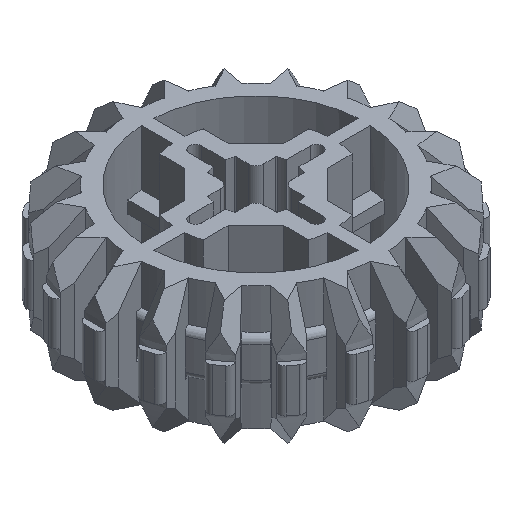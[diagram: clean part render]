
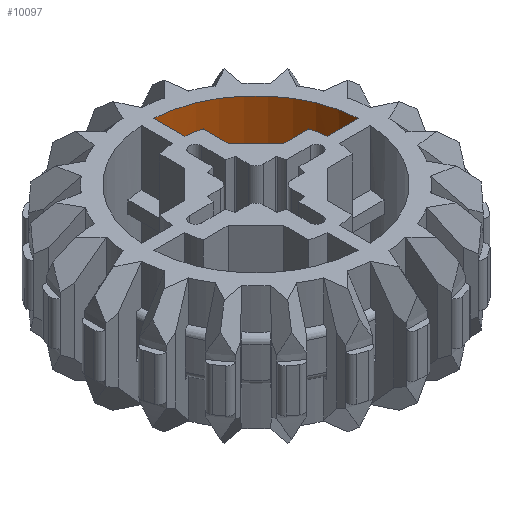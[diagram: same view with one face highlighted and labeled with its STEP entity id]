
A CAD part, isometric view. The second image highlights one B-rep face of the part: STEP entity #10097.
In plain terms, the highlighted cylindrical face has radius 7 mm (diameter 14 mm), a partial arc.
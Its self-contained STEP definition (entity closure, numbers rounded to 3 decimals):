
#575=CIRCLE('',#10607,7.);
#577=CIRCLE('',#10610,7.);
#783=CIRCLE('',#11012,7.);
#784=CIRCLE('',#11013,7.);
#785=CIRCLE('',#11014,7.);
#786=CIRCLE('',#11015,7.);
#2924=ORIENTED_EDGE('',*,*,#5269,.F.);
#2925=ORIENTED_EDGE('',*,*,#4802,.T.);
#2926=ORIENTED_EDGE('',*,*,#5278,.F.);
#2927=ORIENTED_EDGE('',*,*,#5279,.T.);
#2928=ORIENTED_EDGE('',*,*,#5255,.T.);
#2929=ORIENTED_EDGE('',*,*,#4798,.T.);
#2930=ORIENTED_EDGE('',*,*,#5264,.F.);
#2931=ORIENTED_EDGE('',*,*,#5280,.F.);
#2932=ORIENTED_EDGE('',*,*,#5281,.F.);
#2933=ORIENTED_EDGE('',*,*,#5282,.F.);
#2934=ORIENTED_EDGE('',*,*,#5283,.T.);
#2935=ORIENTED_EDGE('',*,*,#5284,.F.);
#4798=EDGE_CURVE('',#6190,#6191,#575,.T.);
#4802=EDGE_CURVE('',#6194,#6195,#577,.T.);
#5255=EDGE_CURVE('',#6394,#6190,#7342,.T.);
#5264=EDGE_CURVE('',#6401,#6191,#7350,.T.);
#5269=EDGE_CURVE('',#6194,#6404,#7355,.F.);
#5278=EDGE_CURVE('',#6409,#6195,#7363,.T.);
#5279=EDGE_CURVE('',#6409,#6394,#783,.T.);
#5280=EDGE_CURVE('',#6410,#6401,#784,.T.);
#5281=EDGE_CURVE('',#6411,#6410,#7364,.T.);
#5282=EDGE_CURVE('',#6412,#6411,#785,.T.);
#5283=EDGE_CURVE('',#6412,#6413,#7365,.T.);
#5284=EDGE_CURVE('',#6404,#6413,#786,.T.);
#6190=VERTEX_POINT('',#16102);
#6191=VERTEX_POINT('',#16103);
#6194=VERTEX_POINT('',#16111);
#6195=VERTEX_POINT('',#16112);
#6394=VERTEX_POINT('',#17021);
#6401=VERTEX_POINT('',#17038);
#6404=VERTEX_POINT('',#17049);
#6409=VERTEX_POINT('',#17064);
#6410=VERTEX_POINT('',#17069);
#6411=VERTEX_POINT('',#17071);
#6412=VERTEX_POINT('',#17073);
#6413=VERTEX_POINT('',#17075);
#7342=LINE('',#17020,#8302);
#7350=LINE('',#17039,#8310);
#7355=LINE('',#17048,#8315);
#7363=LINE('',#17065,#8323);
#7364=LINE('',#17070,#8324);
#7365=LINE('',#17074,#8325);
#8302=VECTOR('',#13677,1000.);
#8310=VECTOR('',#13691,1000.);
#8315=VECTOR('',#13700,1000.);
#8323=VECTOR('',#13714,1000.);
#8324=VECTOR('',#13721,1000.);
#8325=VECTOR('',#13724,1000.);
#8767=EDGE_LOOP('',(#2924,#2925,#2926,#2927,#2928,#2929,#2930,#2931,#2932,
#2933,#2934,#2935));
#9321=FACE_BOUND('',#8767,.T.);
#9653=CYLINDRICAL_SURFACE('',#11011,7.);
#10097=ADVANCED_FACE('',(#9321),#9653,.F.);
#10607=AXIS2_PLACEMENT_3D('',#16101,#12658,#12659);
#10610=AXIS2_PLACEMENT_3D('',#16110,#12666,#12667);
#11011=AXIS2_PLACEMENT_3D('',#17066,#13715,#13716);
#11012=AXIS2_PLACEMENT_3D('',#17067,#13717,#13718);
#11013=AXIS2_PLACEMENT_3D('',#17068,#13719,#13720);
#11014=AXIS2_PLACEMENT_3D('',#17072,#13722,#13723);
#11015=AXIS2_PLACEMENT_3D('',#17076,#13725,#13726);
#12658=DIRECTION('',(0.,0.,-1.));
#12659=DIRECTION('',(-1.,0.,0.));
#12666=DIRECTION('',(0.,0.,-1.));
#12667=DIRECTION('',(-1.,0.,0.));
#13677=DIRECTION('',(0.,0.,-1.));
#13691=DIRECTION('',(0.,0.,1.));
#13700=DIRECTION('',(0.,0.,1.));
#13714=DIRECTION('',(0.,0.,-1.));
#13715=DIRECTION('',(0.,0.,1.));
#13716=DIRECTION('',(1.,0.,0.));
#13717=DIRECTION('',(0.,0.,1.));
#13718=DIRECTION('',(1.,0.,0.));
#13719=DIRECTION('',(0.,0.,-1.));
#13720=DIRECTION('',(-1.,0.,0.));
#13721=DIRECTION('',(0.,0.,1.));
#13722=DIRECTION('',(0.,0.,1.));
#13723=DIRECTION('',(1.,0.,0.));
#13724=DIRECTION('',(0.,0.,1.));
#13725=DIRECTION('',(0.,0.,-1.));
#13726=DIRECTION('',(-1.,0.,0.));
#16101=CARTESIAN_POINT('',(0.,0.,0.4));
#16102=CARTESIAN_POINT('',(0.4,6.989,0.4));
#16103=CARTESIAN_POINT('',(1.4,6.859,0.4));
#16110=CARTESIAN_POINT('',(0.,0.,0.4));
#16111=CARTESIAN_POINT('',(6.859,1.4,0.4));
#16112=CARTESIAN_POINT('',(6.989,0.4,0.4));
#17020=CARTESIAN_POINT('',(0.4,6.989,4.));
#17021=CARTESIAN_POINT('',(0.4,6.989,4.));
#17038=CARTESIAN_POINT('',(1.4,6.859,-0.4));
#17039=CARTESIAN_POINT('',(1.4,6.859,54.));
#17048=CARTESIAN_POINT('',(6.859,1.4,54.));
#17049=CARTESIAN_POINT('',(6.859,1.4,-0.4));
#17064=CARTESIAN_POINT('',(6.989,0.4,4.));
#17065=CARTESIAN_POINT('',(6.989,0.4,4.));
#17066=CARTESIAN_POINT('',(0.,0.,54.));
#17067=CARTESIAN_POINT('',(0.,0.,4.));
#17068=CARTESIAN_POINT('',(0.,0.,-0.4));
#17069=CARTESIAN_POINT('',(0.4,6.989,-0.4));
#17070=CARTESIAN_POINT('',(0.4,6.989,-4.));
#17071=CARTESIAN_POINT('',(0.4,6.989,-4.));
#17072=CARTESIAN_POINT('',(0.,0.,-4.));
#17073=CARTESIAN_POINT('',(6.989,0.4,-4.));
#17074=CARTESIAN_POINT('',(6.989,0.4,-4.));
#17075=CARTESIAN_POINT('',(6.989,0.4,-0.4));
#17076=CARTESIAN_POINT('',(0.,0.,-0.4));
